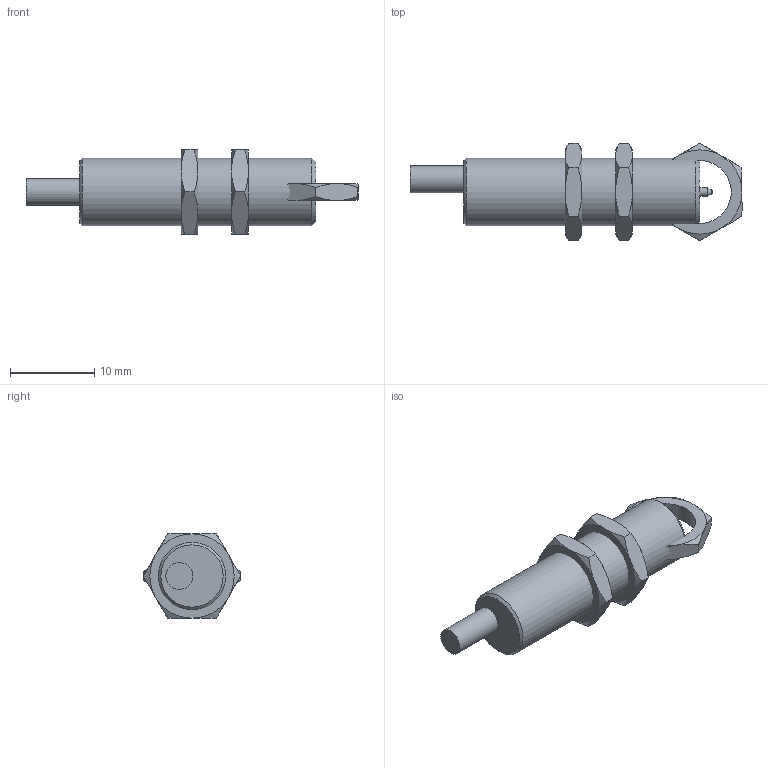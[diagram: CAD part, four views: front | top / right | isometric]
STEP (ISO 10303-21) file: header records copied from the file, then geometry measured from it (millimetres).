
FILE_DESCRIPTION( ( 'Unknown' ), '1' );
FILE_NAME( 'Z:/bereich/BECH/Services/me_CAD/Solid Edge/Models/Dokumentationen/MyCom+MS/MyCom G/Vereinfachte Modelle/Neutralformate/MY COM_G.stp', 'Unknown', ( 'Unknown' ), ( 'Unknown' ), 'XStep 1.0', 'Unknown', ' ' );
FILE_SCHEMA( ( 'automotive_design' ) );
Length unit declared in the file: millimetre
Products named in the file (3): Assem1; MY COM_G_oA; 109365
Bounding box: 39.4 x 11.55 x 10 mm (x, y, z)
Volume: 3162.4 mm3; surface area: 2301.4 mm2
Topology: 5 solids, 5 shells, 83 faces, 172 edges, 103 vertices
Faces by surface type: cone 42, plane 30, cylinder 9, sphere 2
Full cylindrical faces by diameter (mm): 1 x2, 3.2 x2, 7.459 x3, 8 x2
Entity records: 884 total; most frequent: CARTESIAN_POINT 243, DIRECTION 122, ORIENTED_EDGE 106, AXIS2_PLACEMENT_3D 58, EDGE_CURVE 53, EDGE_LOOP 42, FACE_OUTER_BOUND 35, VERTEX_POINT 35
